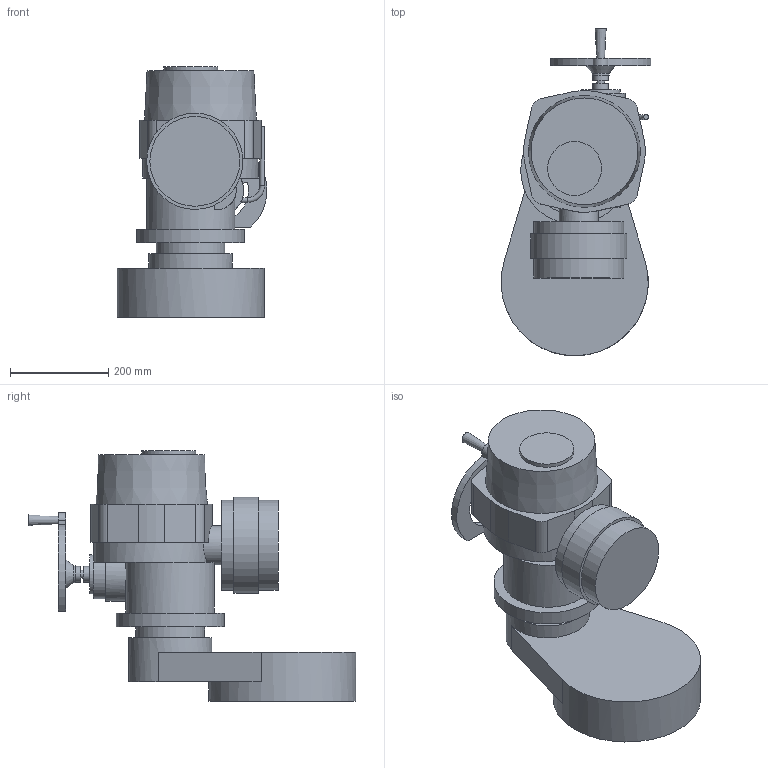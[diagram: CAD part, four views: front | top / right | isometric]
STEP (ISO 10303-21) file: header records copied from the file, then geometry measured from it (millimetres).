
FILE_DESCRIPTION(('STEP AP203'), '1');
FILE_NAME('Ýëåêòðîïðèâîä QT.A 150 ñ ïîçèöèîíåðîì', '', ('UNSPECIFIED'), ('UNSPECIFIED'), 'ASCON STEP Converter 1.6', 'ASCON Math Kernel', '');
FILE_SCHEMA(('CONFIG_CONTROL_DESIGN'));
Length unit declared in the file: millimetre
Bounding box: 305.23 x 667 x 511 mm (x, y, z)
Volume: 27870205 mm3; surface area: 940946.7 mm2
Topology: 1 solids, 1 shells, 128 faces, 273 edges, 180 vertices
Faces by surface type: plane 67, cylinder 57, cone 3, torus 1
Full cylindrical faces by diameter (mm): 10 x2, 14 x12, 16 x1, 17.5 x4, 32 x2, 35 x1, 60 x1, 80 x2, 100 x1, 110 x1, 140 x1, 170 x1, 180 x1, 183 x2, 196 x1, 220 x1, 300 x1
Entity records: 5005 total; most frequent: CARTESIAN_POINT 1241, DIRECTION 596, ORIENTED_EDGE 462, AXIS2_PLACEMENT_3D 252, EDGE_CURVE 231, EDGE_LOOP 205, VERTEX_POINT 178, FACE_BOUND 132
